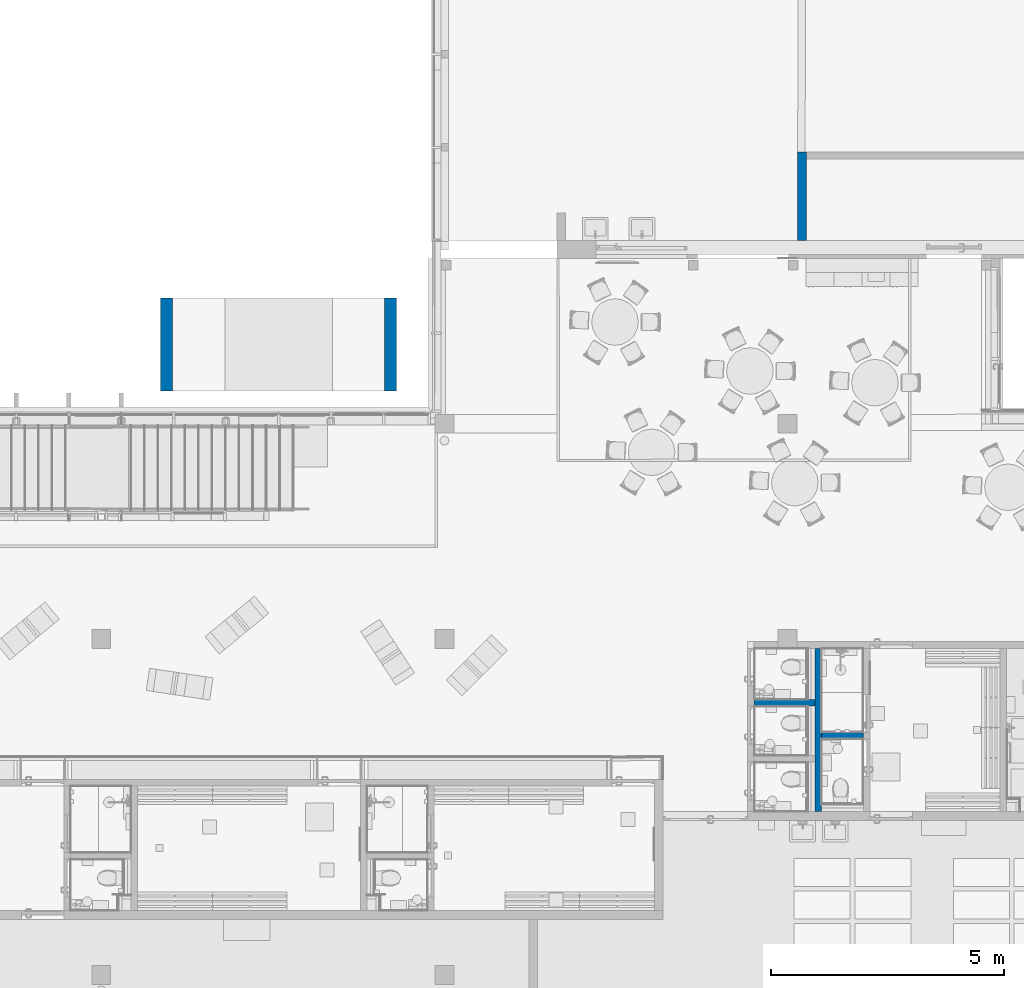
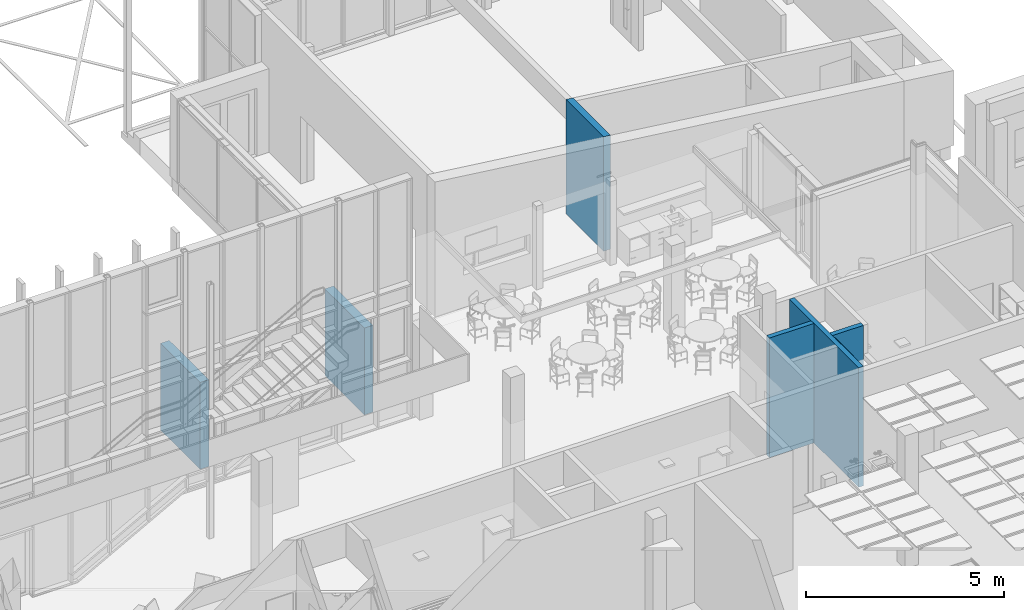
# One storey, part 130 of 301: 6 walls.
"""IFC2X3 building model written with IfcOpenShell, lengths in millimetres."""

import ifcopenshell
import ifcopenshell.guid

model = None  # the IFC model being written
_history = None  # IfcOwnerHistory: only IFC2X3 demands one
_inside = {}  # id of a spatial element -> (the spatial element, [elements in it])
_under = {}  # id of a project, library or spatial element -> (it, [spatial elements below it])
_declared = {}  # id of a project -> (the project, [libraries it declares])
_typed = {}  # id of a type object -> (the type object, [elements of that type])
_made_of = {}  # id of a material, layer set ... -> (it, [elements and type objects made of it])


def new_model(schema):
    """Start an empty IFC model of exactly this schema.

    Asked for "IFC4X3", IfcOpenShell would pick the latest addendum, in which some entities
    have other attributes; the version numbers below select the first issue.
    IFC2X3 requires an IfcOwnerHistory on every rooted entity: one is made here for all.
    """
    global model, _history
    if schema == "IFC4X3":
        model = ifcopenshell.file(schema_version=(4, 3, 0, 0))
    else:
        model = ifcopenshell.file(schema=schema)
    _inside.clear()
    _under.clear()
    _declared.clear()
    _typed.clear()
    _made_of.clear()
    _history = None
    if model.schema == "IFC2X3":
        org = make("IfcOrganization", Name="unknown")
        user = make(
            "IfcPersonAndOrganization",
            ThePerson=make("IfcPerson", FamilyName="unknown"),
            TheOrganization=org,
        )
        app = make(
            "IfcApplication",
            ApplicationDeveloper=org,
            Version="unknown",
            ApplicationFullName="unknown",
            ApplicationIdentifier="unknown",
        )
        _history = make(
            "IfcOwnerHistory",
            OwningUser=user,
            OwningApplication=app,
            ChangeAction="ADDED",
            CreationDate=0,
        )
    return model


def make(cls, **values):
    """One entity of the class cls with the attributes given. An attribute that is None is left unset."""
    return model.create_entity(
        cls, **{name: value for name, value in values.items() if value is not None}
    )


def entity(cls, *values):
    """Any entity or typed value of the class cls, its attributes in the order of the schema. None: left unset."""
    e = model.create_entity(cls)
    for i, value in enumerate(values):
        if value is not None:
            e[i] = value
    return e


def rooted(cls, **values):
    """An entity with a GlobalId (a new one), such as an element, a storey or a relation."""
    return make(cls, GlobalId=ifcopenshell.guid.new(), OwnerHistory=_history, **values)


def si_unit(unit_type, name, prefix=None):
    """IfcSIUnit, for example si_unit("LENGTHUNIT", "METRE", prefix="MILLI")."""
    return make("IfcSIUnit", UnitType=unit_type, Prefix=prefix, Name=name)


def converted_unit(unit_type, name, factor, base, dimensions=None, offset=None):
    """IfcConversionBasedUnit, such as the inch: factor (a typed value) times the base unit."""
    return make(
        "IfcConversionBasedUnit"
        if offset is None
        else "IfcConversionBasedUnitWithOffset",
        ConversionOffset=offset,
        Dimensions=None
        if dimensions is None
        else entity("IfcDimensionalExponents", *dimensions),
        UnitType=unit_type,
        Name=name,
        ConversionFactor=make(
            "IfcMeasureWithUnit", ValueComponent=factor, UnitComponent=base
        ),
    )


def derived_unit(unit_type, elements):
    """IfcDerivedUnit: a product of units, each with its exponent."""
    return make(
        "IfcDerivedUnit",
        Elements=[
            make("IfcDerivedUnitElement", Unit=unit, Exponent=power)
            for unit, power in elements
        ],
        UnitType=unit_type,
    )


def money_unit(currency):
    """IfcMonetaryUnit."""
    return make("IfcMonetaryUnit", Currency=currency)


def assignment(units):
    """IfcUnitAssignment: the units of a project."""
    return None if units is None else make("IfcUnitAssignment", Units=units)


def point(xyz):
    """IfcCartesianPoint."""
    return None if xyz is None else make("IfcCartesianPoint", Coordinates=xyz)


def direction(xyz):
    """IfcDirection."""
    return None if xyz is None else make("IfcDirection", DirectionRatios=xyz)


def frame(location, z_axis=None, x_axis=None):
    """IfcAxis2Placement3D, a coordinate frame: its origin and axes. An axis left out is left unset."""
    return make(
        "IfcAxis2Placement3D",
        Location=point(location),
        Axis=direction(z_axis),
        RefDirection=direction(x_axis),
    )


def origin_with_axes():
    """The frame at (0, 0, 0) with the z axis (0, 0, 1) and the x axis (1, 0, 0) written out."""
    return frame((0.0, 0.0, 0.0), z_axis=(0.0, 0.0, 1.0), x_axis=(1.0, 0.0, 0.0))


def place(relative_to, where):
    """IfcLocalPlacement: puts the frame where relative to a parent placement (None: the world)."""
    return make(
        "IfcLocalPlacement", PlacementRelTo=relative_to, RelativePlacement=where
    )


def context(
    kind, dimensions, precision=None, world=None, true_north=None, identifier=None
):
    """IfcGeometricRepresentationContext, for example the 3D "Model" context."""
    return make(
        "IfcGeometricRepresentationContext",
        ContextIdentifier=identifier,
        ContextType=kind,
        CoordinateSpaceDimension=dimensions,
        Precision=precision,
        WorldCoordinateSystem=world,
        TrueNorth=true_north,
    )


def subcontext(parent, identifier, kind, view, scale=None):
    """IfcGeometricRepresentationSubContext, for example "Body" below "Model"."""
    return make(
        "IfcGeometricRepresentationSubContext",
        ContextIdentifier=identifier,
        ContextType=kind,
        ParentContext=parent,
        TargetScale=scale,
        TargetView=view,
    )


def project(units=None, contexts=None):
    """IfcProject with its units and contexts."""
    return rooted(
        "IfcProject",
        Name="project",
        RepresentationContexts=contexts,
        UnitsInContext=assignment(units),
    )


def spatial(cls, under=None, at=None, **own):
    """A site, building, storey or space (cls), placed at a placement, below another one or the project."""
    s = rooted(cls, ObjectPlacement=at, **own)
    if under is not None:
        _under.setdefault(under.id(), (under, []))[1].append(s)
    return s


def faces_of(points, faces, orient=None, outer=None):
    """IfcFace entities. A face is a list of loops; a loop is a list of indices into points, from 0.

    orient and outer hold one flag for each loop. By default every Orientation is true, the
    first loop of a face is its IfcFaceOuterBound and the others are IfcFaceBound.
    """
    made = []
    for i, loops in enumerate(faces):
        bounds = []
        for j, loop in enumerate(loops):
            is_outer = j == 0 if outer is None else outer[i][j]
            bounds.append(
                make(
                    "IfcFaceOuterBound" if is_outer else "IfcFaceBound",
                    Bound=make("IfcPolyLoop", Polygon=[points[k] for k in loop]),
                    Orientation=True if orient is None else orient[i][j],
                )
            )
        made.append(make("IfcFace", Bounds=bounds))
    return made


def faceted_brep(points, faces, orient=None, outer=None, voids=None):
    """IfcFacetedBrep: a solid bounded by flat faces; with voids (closed shells), ...WithVoids."""
    shared = [point(p) for p in points]
    hull = make("IfcClosedShell", CfsFaces=faces_of(shared, faces, orient, outer))
    if voids is None:
        return make("IfcFacetedBrep", Outer=hull)
    return make(
        "IfcFacetedBrepWithVoids",
        Outer=hull,
        Voids=[
            make(cls, CfsFaces=faces_of(shared, fs, o, b)) for cls, fs, o, b in voids
        ],
    )


def shape(context_of_items, identifier, shape_type, items):
    """IfcShapeRepresentation: the items that make up one representation, for example the "Body"."""
    return make(
        "IfcShapeRepresentation",
        ContextOfItems=context_of_items,
        RepresentationIdentifier=identifier,
        RepresentationType=shape_type,
        Items=items,
    )


def material(Name=None, Category=None):
    """IfcMaterial."""
    return make("IfcMaterial", Name=Name, Category=Category)


def made_of(thing, what):
    """Note that an element or type object is made of a material, layer set ...; save() writes the relation."""
    if what is not None:
        _made_of.setdefault(what.id(), (what, []))[1].append(thing)
    return thing


def type_object(cls, material=None, **own):
    """A type object (cls), such as IfcWallType, which elements share."""
    return made_of(rooted(cls, **own), material)


def element(
    cls,
    number,
    at=None,
    inside=None,
    cuts=None,
    type_object=None,
    material=None,
    context=None,
    identifier="Body",
    shape_type=None,
    held_by="IfcProductDefinitionShape",
    body=None,
    shapes=None,
    **own,
):
    """One element of the class cls, such as IfcWall. Its Tag is "e" and its number.

    at: its placement. inside: the storey or other place that contains it. cuts: it is an
    opening in that element (IfcRelVoidsElement). A single representation is given by context,
    identifier, shape_type and body (its items); several are given by shapes. held_by: the class
    of the entity that holds the representations. save() writes the other relations.
    """
    e = rooted(cls, Tag="e%d" % number, ObjectPlacement=at, **own)
    if body is not None:
        shapes = [shape(context, identifier, shape_type, body)]
    if shapes is not None:
        e.Representation = make(held_by, Representations=shapes)
    if inside is not None:
        _inside.setdefault(inside.id(), (inside, []))[1].append(e)
    if cuts is not None:
        rooted(
            "IfcRelVoidsElement", RelatingBuildingElement=cuts, RelatedOpeningElement=e
        )
    if type_object is not None:
        _typed.setdefault(type_object.id(), (type_object, []))[1].append(e)
    return made_of(e, material)


def aggregate(whole, parts):
    """IfcRelAggregates: a whole, such as a stair, and the parts it consists of."""
    return rooted("IfcRelAggregates", RelatingObject=whole, RelatedObjects=parts)


def save(model, path):
    """Write the relations noted so far, then the file.

    IfcRelAggregates (storeys below a building ...), IfcRelContainedInSpatialStructure (elements
    in a storey), IfcRelDefinesByType, IfcRelAssociatesMaterial and IfcRelDeclares: one each for
    every whole, place, type object, material and project.
    """
    for whole, parts in _under.values():
        aggregate(whole, parts)
    for where, things in _inside.values():
        rooted(
            "IfcRelContainedInSpatialStructure",
            RelatedElements=things,
            RelatingStructure=where,
        )
    for kind, things in _typed.values():
        rooted("IfcRelDefinesByType", RelatedObjects=things, RelatingType=kind)
    for what, things in _made_of.values():
        rooted("IfcRelAssociatesMaterial", RelatedObjects=things, RelatingMaterial=what)
    for by, libraries in _declared.values():
        rooted("IfcRelDeclares", RelatingContext=by, RelatedDefinitions=libraries)
    model.write(path)


model = new_model("IFC2X3")

# Units and contexts
model_context = context("Model", 3, precision=0.01, world=origin_with_axes(), true_north=direction((0.0, 1.0)))
body_context = subcontext(model_context, "Body", "Model", "MODEL_VIEW")
ifc_project = project(units=[si_unit("LENGTHUNIT", "METRE", prefix="MILLI"), si_unit("AREAUNIT", "SQUARE_METRE"), si_unit("VOLUMEUNIT", "CUBIC_METRE"), converted_unit("PLANEANGLEUNIT", "DEGREE", entity("IfcPlaneAngleMeasure", 0.0174532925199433), si_unit("PLANEANGLEUNIT", "RADIAN"), dimensions=[0, 0, 0, 0, 0, 0, 0]), money_unit("EUR"), converted_unit("TIMEUNIT", "Year", entity("IfcTimeMeasure", 31557600.0), si_unit("TIMEUNIT", "SECOND"), dimensions=[0, 0, 1, 0, 0, 0, 0]), si_unit("MASSUNIT", "GRAM", prefix="KILO"), si_unit("THERMODYNAMICTEMPERATUREUNIT", "DEGREE_CELSIUS"), si_unit("LUMINOUSINTENSITYUNIT", "LUMEN"), si_unit("ENERGYUNIT", "JOULE", prefix="MEGA"), derived_unit("THERMALCONDUCTANCEUNIT", [(si_unit("POWERUNIT", "WATT"), 1), (si_unit("LENGTHUNIT", "METRE"), -1), (si_unit("THERMODYNAMICTEMPERATUREUNIT", "KELVIN"), -1)]), derived_unit("SPECIFICHEATCAPACITYUNIT", [(si_unit("ENERGYUNIT", "JOULE"), 1), (si_unit("MASSUNIT", "GRAM", prefix="KILO"), -1), (si_unit("THERMODYNAMICTEMPERATUREUNIT", "KELVIN"), -1)]), derived_unit("MASSDENSITYUNIT", [(si_unit("MASSUNIT", "GRAM", prefix="KILO"), 1), (si_unit("VOLUMEUNIT", "CUBIC_METRE"), -1)])], contexts=[model_context])

# Site, building, storey
site_placement = place(None, frame((0.0, 0.0, 8650.0), z_axis=(0.0, 0.0, 1.0), x_axis=(1.0, 0.0, 0.0)))
site = spatial("IfcSite", under=ifc_project, at=site_placement, Name="43301:001:0844", CompositionType="ELEMENT")
building_placement = place(site_placement, origin_with_axes())
building = spatial("IfcBuilding", under=site, at=building_placement, Name="Kuressaare Ametikooli tuulikute mehaanikute õppekorpus", CompositionType="ELEMENT")
storey_placement = place(building_placement, origin_with_axes())
storey = spatial("IfcBuildingStorey", under=building, at=storey_placement, Name="1.korrus", CompositionType="ELEMENT", Elevation=0.0)

# Walls
ifc_material_1 = material(Name="Betoonõõnesplokk")
wall_type_1 = type_object("IfcWallType", Name="SS-1.2 140", PredefinedType="NOTDEFINED")
wall_1_placement = place(storey_placement, frame((126505.2607020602, 22474.4701701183, 0.0), z_axis=(0.0, 0.0, 1.0), x_axis=(-0.9999999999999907, -1.369512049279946e-07, 0.0)))
element("IfcWall", 1, at=wall_1_placement, inside=storey, type_object=wall_type_1, material=ifc_material_1, Name="Sisesein", context=body_context, shape_type="Brep", body=[
    faceted_brep([(1300.000105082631, 0.0, 0.0), (1300.000105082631, 0.0, 3690.0), (-0.0003385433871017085, 0.0, 3690.0), (-0.0003385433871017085, 0.0, 0.0), (1300.000105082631, 140.0000000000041, 0.0), (1300.000105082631, 140.0000000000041, 3690.0), (-0.0003193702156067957, 140.0000000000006, 3690.0), (-0.0003193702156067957, 139.999999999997, 0.0)], [[[0, 1, 2, 3]], [[4, 5, 1, 0]], [[5, 6, 2, 1]], [[3, 2, 6, 7]], [[3, 7, 4, 0]], [[7, 6, 5, 4]]]),
])
wall_2_placement = place(storey_placement, frame((126505.2610406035, 23574.0689239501, 0.0), z_axis=(0.0, 0.0, 1.0), x_axis=(0.0, -1.0, 0.0)))
element("IfcWall", 2, at=wall_2_placement, inside=storey, type_object=wall_type_1, material=ifc_material_1, Name="Sisesein", context=body_context, shape_type="Brep", body=[
    faceted_brep([(2087.0, 140.0000000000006, 3690.0), (2087.0, 139.0632299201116, 3690.0), (2087.0, 139.0632299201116, 3710.0), (2087.0, 140.0000000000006, 3710.0), (0.0, 140.0000000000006, 3690.0), (0.0, 0.0, 3690.0), (3499.599082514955, 0.0, 3690.0), (3499.599082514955, 140.0000000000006, 3690.0), (2986.999999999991, 140.0000000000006, 3690.0), (2986.999999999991, 139.0632299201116, 3690.0), (2986.999999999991, 139.0632299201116, 3710.0), (2986.999999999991, 140.0000000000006, 3710.0), (3499.599082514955, 140.0000000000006, 0.0), (0.0, 140.0000000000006, 0.0), (0.0, 0.0, 0.0), (3499.599082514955, 0.0, 0.0)], [[[0, 1, 2, 3]], [[4, 5, 6, 7, 8, 9, 1, 0]], [[9, 10, 2, 1]], [[3, 2, 10, 11]], [[4, 0, 3, 11, 8, 7, 12, 13]], [[14, 5, 4, 13]], [[6, 5, 14, 15]], [[12, 7, 6, 15]], [[11, 10, 9, 8]], [[13, 12, 15, 14]]]),
])
wall_3_placement = place(storey_placement, frame((126505.2610406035, 21774.06892395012, 0.0), z_axis=(0.0, 0.0, 1.0), x_axis=(1.0, 0.0, 0.0)))
element("IfcWall", 3, at=wall_3_placement, inside=storey, type_object=wall_type_1, material=ifc_material_1, Name="Sisesein", context=body_context, shape_type="Brep", body=[
    faceted_brep([(140.0000000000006, 0.0, 0.0), (140.0000000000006, 0.0, 3690.0), (1039.999999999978, 0.0, 3690.0), (1039.999999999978, 0.0, 0.0), (140.0000000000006, -140.0000000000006, 0.0), (140.0000000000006, -140.0000000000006, 3690.0), (1039.999999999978, -140.0000000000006, 3690.0), (1039.999999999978, -140.0000000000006, 0.0)], [[[0, 1, 2, 3]], [[4, 5, 1, 0]], [[5, 6, 2, 1]], [[3, 2, 6, 7]], [[4, 0, 3, 7]], [[7, 6, 5, 4]]]),
])
ifc_material_2 = material(Name="GENEERILINE - KONSTRUKTRIOON")
wall_type_2 = type_object("IfcWallType", Name="GENEERILINE - KONSTRUKTRIOON 200", PredefinedType="NOTDEFINED")
wall_4_placement = place(storey_placement, frame((126127.7652182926, 34208.5843476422, 0.0), z_axis=(0.0, 0.0, 1.0), x_axis=(2.113672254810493e-09, -1.0, 0.0)))
element("IfcWall", 4, at=wall_4_placement, inside=storey, type_object=wall_type_2, material=ifc_material_2, context=body_context, shape_type="Brep", body=[
    faceted_brep([(0.0, 200.0000000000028, 3510.973937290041), (0.0, 200.0000000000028, 0.0), (0.0, 0.0, 0.0), (0.0, 0.0, 3535.530849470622), (0.0, 7.667519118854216, 3510.0), (0.0, 7.667519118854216, 2910.0), (0.0, 167.6682061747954, 2910.0), (0.0, 167.6682061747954, 3510.0), (1899.757062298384, 199.9999959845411, 3510.973934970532), (1899.757062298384, 199.9999959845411, 0.0), (1899.757061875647, -4.015461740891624e-06, 0.0), (1899.757061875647, -4.015461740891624e-06, 3535.530847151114), (408.5655427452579, 6.470190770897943, 2910.0), (408.5655427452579, 6.470190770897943, 3510.0), (409.0344313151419, 166.4695037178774, 2910.0), (409.0344313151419, 166.4695037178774, 3510.0)], [[[0, 1, 2, 3], [4, 5, 6, 7]], [[8, 9, 1, 0]], [[1, 9, 10, 2]], [[2, 10, 11, 3]], [[0, 3, 11, 8]], [[12, 5, 4, 13]], [[14, 6, 5, 12]], [[15, 7, 6, 14]], [[13, 4, 7, 15]], [[11, 10, 9, 8]], [[14, 12, 13, 15]]]),
])
wall_type_3 = type_object("IfcWallType", Name="GENEERILINE - KONSTRUKTRIOON 256", PredefinedType="NOTDEFINED")
wall_5_placement = place(storey_placement, frame((112742.1026822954, 29084.06892370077, 0.0), z_axis=(0.0, 0.0, 1.0), x_axis=(0.0, 1.0, 0.0)))
element("IfcWall", 5, at=wall_5_placement, inside=storey, type_object=wall_type_3, material=ifc_material_2, Name="Varikatus", context=body_context, shape_type="Brep", body=[
    faceted_brep([(0.0, 0.0, 2680.043183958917), (2000.000000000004, 0.0, 2680.043183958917), (2000.000000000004, 256.0000000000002, 2680.043183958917), (0.0, 256.0000000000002, 2680.043183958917), (0.0, 0.0, 0.0), (2000.000000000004, 0.0, 0.0), (2000.000000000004, 256.0000000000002, 0.0), (0.0, 256.0000000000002, 0.0)], [[[0, 1, 2, 3]], [[4, 5, 1, 0]], [[2, 1, 5, 6]], [[3, 2, 6, 7]], [[4, 0, 3, 7]], [[7, 6, 5, 4]]]),
])
wall_6_placement = place(storey_placement, frame((117280.2884851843, 29084.06892370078, 0.0), z_axis=(0.0, 0.0, 1.0), x_axis=(0.0, 1.0, 0.0)))
element("IfcWall", 6, at=wall_6_placement, inside=storey, type_object=wall_type_3, material=ifc_material_2, Name="Varikatus", context=body_context, shape_type="Brep", body=[
    faceted_brep([(0.0, 0.0, 0.0), (2000.0, 0.0, 0.0), (2000.0, -256.0000000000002, 0.0), (0.0, -256.0000000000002, 0.0), (0.0, 0.0, 2680.043183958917), (2000.0, 0.0, 2680.043183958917), (2000.0, -256.0000000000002, 2680.043183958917), (0.0, -256.0000000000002, 2680.043183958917)], [[[0, 1, 2, 3]], [[4, 5, 1, 0]], [[2, 1, 5, 6]], [[3, 2, 6, 7]], [[4, 0, 3, 7]], [[7, 6, 5, 4]]]),
])

save(model, "model.ifc")
